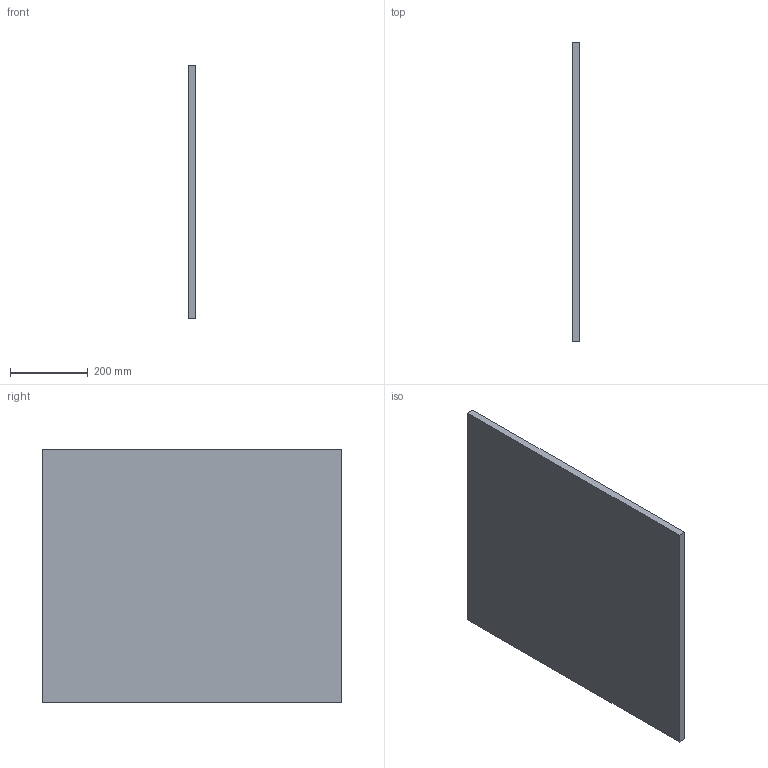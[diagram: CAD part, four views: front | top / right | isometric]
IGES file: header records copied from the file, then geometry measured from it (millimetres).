
Start section:  PTC IGES file: c5_27d_left_side.igs
Global section: file name: c5_27d_left_side.igs; native system: Creo Parametric by Parametric Technology Corporation; preprocessor: 2014310; author: mkothari; organization: Unknown; date: 20150922.084254; units: inch
Bounding box: 19.05 x 767.79 x 649.4 mm (x, y, z)
Volume: 9482371.2 mm3; surface area: 1057954.3 mm2
Topology: 1 solids, 1 shells, 64 faces, 132 edges, 88 vertices
Faces by surface type: bspline 64
